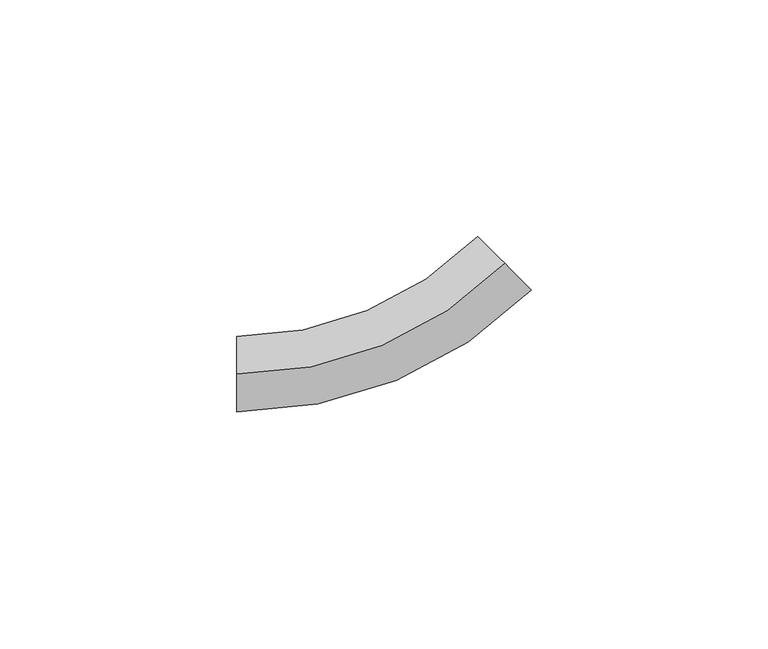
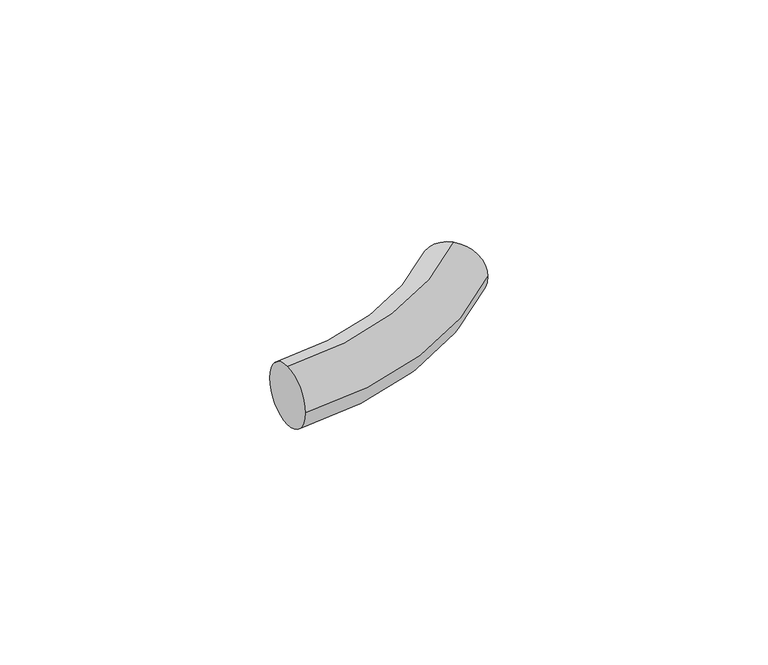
"""IFC4 building model written with IfcOpenShell, lengths in millimetres: pipe fitting geometry, HC-Kształtka-ParaForma-Tweetop-PERT-Rura_PERT_EVOH_PERT_Gięcie : Tweetop."""

from ifc_helpers import new_model, si_unit, point, frame, origin, place, context, project, spatial, circle_curve, ellipse_curve, trimmed, source, transform, mapped, element, save
from ifc_brep_helpers import plane_surface, revolved_surface, advanced_brep


def pipe_fitting_d41fe6a2(model_context):
    return source(origin(), model_context, "Body", "AdvancedBrep", [
        advanced_brep(
        [(-33.137085, 0.0, 8.0), (-33.137085, 8.0, 0.0), (-33.137085, 0.0, -8.0), (-33.137085, -8.0, 0.0), (23.4314575, 23.4314575, 8.0), (29.0883118, 17.7746033, 0.0), (23.4314575, 23.4314575, -8.0), (17.7746033, 29.0883118, 0.0)],
        [
            (0, 1, circle_curve(frame((-33.137085, 0.0, 0.0), z_axis=(-1.0, 0.0, 0.0), x_axis=(0.0, 1.0, 0.0)), 8.0)),
            (1, 2, circle_curve(frame((-33.137085, 0.0, 0.0), z_axis=(-1.0, 0.0, 0.0), x_axis=(0.0, 1.0, 0.0)), 8.0)),
            (2, 3, circle_curve(frame((-33.137085, 0.0, 0.0), z_axis=(-1.0, 0.0, 0.0), x_axis=(0.0, 1.0, 0.0)), 8.0)),
            (3, 0, circle_curve(frame((-33.137085, 0.0, 0.0), z_axis=(-1.0, 0.0, 0.0), x_axis=(0.0, 1.0, 0.0)), 8.0)),
            (4, 5, circle_curve(frame((23.4314575, 23.4314575, 0.0), z_axis=(0.707106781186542, 0.707106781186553, 0.0), x_axis=(-0.707106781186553, 0.707106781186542, 0.0)), 8.0)),
            (5, 6, circle_curve(frame((23.4314575, 23.4314575, 0.0), z_axis=(0.707106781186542, 0.707106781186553, 0.0), x_axis=(-0.707106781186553, 0.707106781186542, 0.0)), 8.0)),
            (6, 7, circle_curve(frame((23.4314575, 23.4314575, 0.0), z_axis=(0.707106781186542, 0.707106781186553, 0.0), x_axis=(-0.707106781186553, 0.707106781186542, 0.0)), 8.0)),
            (7, 4, circle_curve(frame((23.4314575, 23.4314575, 0.0), z_axis=(0.707106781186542, 0.707106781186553, 0.0), x_axis=(-0.707106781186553, 0.707106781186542, 0.0)), 8.0)),
            (7, 1, circle_curve(frame((-33.137085, 80.0, 0.0), z_axis=(0.0, 0.0, -1.0), x_axis=(0.0, -1.0, 0.0)), 72.0)),
            (0, 4, circle_curve(frame((-33.137085, 80.0, 8.0), z_axis=(0.0, 0.0, 1.0), x_axis=(0.0, -1.0, 0.0)), 80.0)),
            (6, 2, circle_curve(frame((-33.137085, 80.0, -8.0), z_axis=(0.0, 0.0, -1.0), x_axis=(0.0, -1.0, 0.0)), 80.0)),
            (5, 3, circle_curve(frame((-33.137085, 80.0, 0.0), z_axis=(0.0, 0.0, -1.0), x_axis=(0.0, -1.0, 0.0)), 88.0)),
        ],
        [
            plane_surface(frame((-33.137085, 0.0, 0.0), z_axis=(-1.0, 0.0, 0.0), x_axis=(0.0, 0.0, 1.0))),
            plane_surface(frame((23.4314575, 23.4314575, 0.0), z_axis=(0.7071067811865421, 0.7071067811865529, 0.0), x_axis=(0.0, 0.0, 1.0))),
            revolved_surface(trimmed(ellipse_curve(frame((-33.137085, 0.0, 0.0), z_axis=(-1.0, 0.0, 0.0), x_axis=(0.0, 1.0, 0.0)), 8.0, 8.0), [point((-33.137085, 0.0, 8.0))], [point((-33.137085, 8.0, 0.0))], True, "CARTESIAN"), (-33.137085, 80.0, 0.0), (0.0, 0.0, 1.0)),
            revolved_surface(trimmed(ellipse_curve(frame((-33.137085, 0.0, 0.0), z_axis=(-1.0, 0.0, 0.0), x_axis=(0.0, 1.0, 0.0)), 8.0, 8.0), [point((-33.137085, 8.0, 0.0))], [point((-33.137085, 0.0, -8.0))], True, "CARTESIAN"), (-33.137085, 80.0, 0.0), (0.0, 0.0, 1.0)),
            revolved_surface(trimmed(ellipse_curve(frame((-33.137085, 0.0, 0.0), z_axis=(-1.0, 0.0, 0.0), x_axis=(0.0, 1.0, 0.0)), 8.0, 8.0), [point((-33.137085, 0.0, -8.0))], [point((-33.137085, -8.0, 0.0))], True, "CARTESIAN"), (-33.137085, 80.0, 0.0), (0.0, 0.0, 1.0)),
            revolved_surface(trimmed(ellipse_curve(frame((-33.137085, 0.0, 0.0), z_axis=(-1.0, 0.0, 0.0), x_axis=(0.0, 1.0, 0.0)), 8.0, 8.0), [point((-33.137085, -8.0, 0.0))], [point((-33.137085, 0.0, 8.0))], True, "CARTESIAN"), (-33.137085, 80.0, 0.0), (0.0, 0.0, 1.0)),
        ],
        [
            (0, [[1, 2, 3, 4]]),
            (1, [[5, 6, 7, 8]]),
            (2, [[9, -1, 10, -8]]),
            (3, [[11, -2, -9, -7]]),
            (4, [[12, -3, -11, -6]]),
            (5, [[-10, -4, -12, -5]]),
        ],
    ),
    ])


if __name__ == "__main__":
    model = new_model("IFC4")
    model_context = context("Model", 3, world=origin())
    ifc_project = project(units=[si_unit("LENGTHUNIT", "METRE", prefix="MILLI")], contexts=[model_context])
    site = spatial("IfcSite", under=ifc_project)
    building = spatial("IfcBuilding", under=site)
    placement = place(None, origin())
    pipe_fitting_shape = pipe_fitting_d41fe6a2(model_context)
    element("IfcPipeFitting", 1, ObjectType="HC-Kształtka-ParaForma-Tweetop-PERT-Rura_PERT_EVOH_PERT_Gięcie : Tweetop", at=placement, inside=building, context=model_context, shape_type="MappedRepresentation", body=[
        mapped(pipe_fitting_shape, transform((0.0, 0.0, 0.0), x_axis=(1.0, 0.0, 0.0), y_axis=(0.0, 1.0, 0.0), z_axis=(0.0, 0.0, 1.0))),
    ])
    save(model, "model.ifc")
